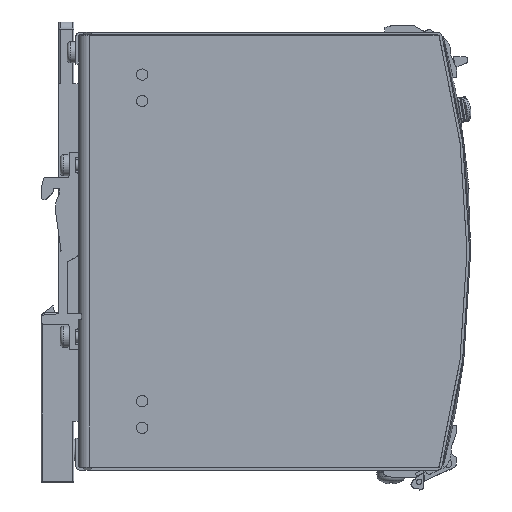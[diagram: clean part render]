
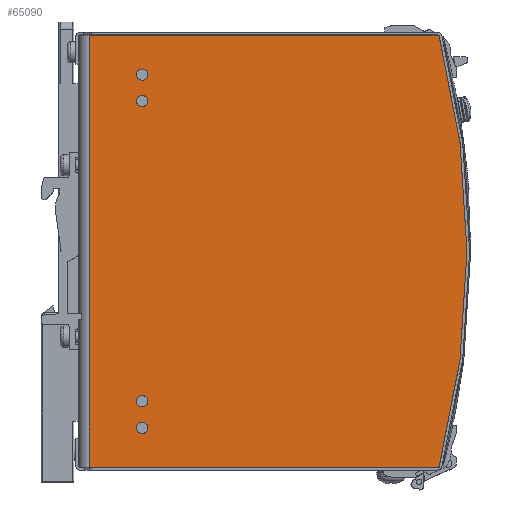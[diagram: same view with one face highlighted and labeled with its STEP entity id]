
A CAD part, front view. The second image highlights one B-rep face of the part: STEP entity #65090.
In plain terms, the highlighted planar face has unit normal (0, -1, 0).
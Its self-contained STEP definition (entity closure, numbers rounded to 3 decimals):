
#2000=LINE('',#90672,#9420);
#2007=LINE('',#90696,#9427);
#2009=LINE('',#90701,#9429);
#9420=VECTOR('',#73532,99.079);
#9427=VECTOR('',#73559,122.3);
#9429=VECTOR('',#73565,99.079);
#16824=PLANE('',#68626);
#19360=FACE_BOUND('',#23599,.T.);
#19361=FACE_BOUND('',#23600,.T.);
#19362=FACE_BOUND('',#23601,.T.);
#19363=FACE_BOUND('',#23602,.T.);
#20131=FACE_OUTER_BOUND('',#23598,.T.);
#23598=EDGE_LOOP('',(#45317,#45318,#45319,#45320));
#23599=EDGE_LOOP('',(#45321));
#23600=EDGE_LOOP('',(#45322));
#23601=EDGE_LOOP('',(#45323));
#23602=EDGE_LOOP('',(#45324));
#27787=CIRCLE('',#68584,1.6);
#27789=CIRCLE('',#68587,1.6);
#27791=CIRCLE('',#68590,1.6);
#27793=CIRCLE('',#68593,1.6);
#27798=CIRCLE('',#68605,240.);
#29180=VERTEX_POINT('',#90582);
#29182=VERTEX_POINT('',#90587);
#29184=VERTEX_POINT('',#90592);
#29186=VERTEX_POINT('',#90597);
#29199=VERTEX_POINT('',#90634);
#29200=VERTEX_POINT('',#90635);
#29214=VERTEX_POINT('',#90671);
#29221=VERTEX_POINT('',#90695);
#35598=EDGE_CURVE('',#29180,#29180,#27787,.T.);
#35600=EDGE_CURVE('',#29182,#29182,#27789,.T.);
#35602=EDGE_CURVE('',#29184,#29184,#27791,.T.);
#35604=EDGE_CURVE('',#29186,#29186,#27793,.T.);
#35621=EDGE_CURVE('',#29199,#29200,#27798,.T.);
#35639=EDGE_CURVE('',#29199,#29214,#2000,.T.);
#35651=EDGE_CURVE('',#29221,#29214,#2007,.T.);
#35654=EDGE_CURVE('',#29200,#29221,#2009,.T.);
#45317=ORIENTED_EDGE('',*,*,#35621,.T.);
#45318=ORIENTED_EDGE('',*,*,#35654,.T.);
#45319=ORIENTED_EDGE('',*,*,#35651,.T.);
#45320=ORIENTED_EDGE('',*,*,#35639,.F.);
#45321=ORIENTED_EDGE('',*,*,#35598,.T.);
#45322=ORIENTED_EDGE('',*,*,#35600,.T.);
#45323=ORIENTED_EDGE('',*,*,#35602,.T.);
#45324=ORIENTED_EDGE('',*,*,#35604,.T.);
#65090=ADVANCED_FACE('',(#20131,#19360,#19361,#19362,#19363),#16824,.T.);
#68584=AXIS2_PLACEMENT_3D('',#90583,#73446,#73447);
#68587=AXIS2_PLACEMENT_3D('',#90588,#73452,#73453);
#68590=AXIS2_PLACEMENT_3D('',#90593,#73458,#73459);
#68593=AXIS2_PLACEMENT_3D('',#90598,#73464,#73465);
#68605=AXIS2_PLACEMENT_3D('',#90636,#73500,#73501);
#68626=AXIS2_PLACEMENT_3D('',#90700,#73563,#73564);
#73446=DIRECTION('center_axis',(0.,1.,0.));
#73447=DIRECTION('ref_axis',(-1.,0.,0.));
#73452=DIRECTION('center_axis',(0.,1.,0.));
#73453=DIRECTION('ref_axis',(-1.,0.,0.));
#73458=DIRECTION('center_axis',(0.,1.,0.));
#73459=DIRECTION('ref_axis',(-1.,0.,0.));
#73464=DIRECTION('center_axis',(0.,1.,0.));
#73465=DIRECTION('ref_axis',(-1.,0.,0.));
#73500=DIRECTION('center_axis',(0.,-1.,0.));
#73501=DIRECTION('ref_axis',(-0.967,0.,-0.255));
#73532=DIRECTION('',(-1.,0.,0.));
#73559=DIRECTION('',(0.,0.,-1.));
#73563=DIRECTION('center_axis',(0.,-1.,0.));
#73564=DIRECTION('ref_axis',(0.,0.,-1.));
#73565=DIRECTION('',(-1.,0.,0.));
#90582=CARTESIAN_POINT('',(19.6,-19.5,-42.5));
#90583=CARTESIAN_POINT('Origin',(18.,-19.5,-42.5));
#90587=CARTESIAN_POINT('',(19.6,-19.5,50.));
#90588=CARTESIAN_POINT('Origin',(18.,-19.5,50.));
#90592=CARTESIAN_POINT('',(19.6,-19.5,42.5));
#90593=CARTESIAN_POINT('Origin',(18.,-19.5,42.5));
#90597=CARTESIAN_POINT('',(19.6,-19.5,-50.));
#90598=CARTESIAN_POINT('Origin',(18.,-19.5,-50.));
#90634=CARTESIAN_POINT('',(102.079,-19.5,-61.15));
#90635=CARTESIAN_POINT('',(102.079,-19.5,61.15));
#90636=CARTESIAN_POINT('Origin',(-130.,-19.5,0.));
#90671=CARTESIAN_POINT('',(3.,-19.5,-61.15));
#90672=CARTESIAN_POINT('',(130.,-19.5,-61.15));
#90695=CARTESIAN_POINT('',(3.,-19.5,61.15));
#90696=CARTESIAN_POINT('',(3.,-19.5,-61.15));
#90700=CARTESIAN_POINT('Origin',(130.,-19.5,-61.15));
#90701=CARTESIAN_POINT('',(130.,-19.5,61.15));
